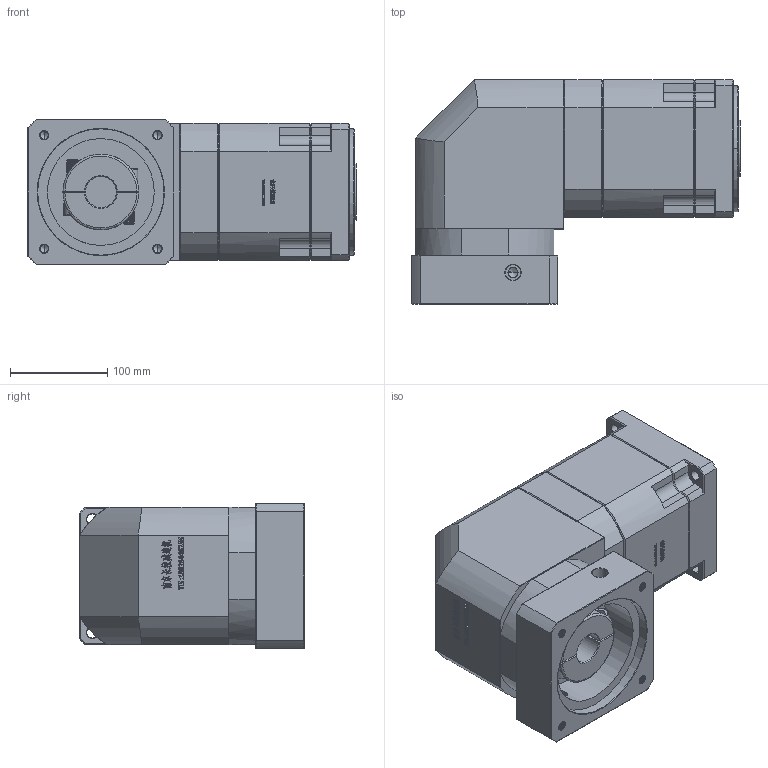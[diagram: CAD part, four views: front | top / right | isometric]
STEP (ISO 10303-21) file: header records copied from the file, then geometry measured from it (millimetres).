
FILE_DESCRIPTION (( 'STEP AP214' ), '1' );
FILE_NAME ('ZBR142A-K35-L3-32-130-165-M10.step', '2023-03-18T09:28:06', ( '' ), ( '' ), 'SwSTEP 2.0', 'SolidWorks 2016', '' );
FILE_SCHEMA (( 'AUTOMOTIVE_DESIGN' ));
Length unit declared in the file: millimetre
Products named in the file (1): ZBR142A-K35-L3-32-130-165-M10
Bounding box: 337.7 x 231 x 150 mm (x, y, z)
Volume: 6850977 mm3; surface area: 435496.7 mm2
Topology: 6 solids, 6 shells, 2879 faces, 7621 edges, 4890 vertices
Faces by surface type: plane 1545, bspline 576, cylinder 391, cone 334, torus 33
Entity records: 158251 total; most frequent: CARTESIAN_POINT 59717, ORIENTED_EDGE 15186, DIRECTION 11544, EDGE_CURVE 7593, VECTOR 5180, LINE 5180, VERTEX_POINT 4890, AXIS2_PLACEMENT_3D 3182
